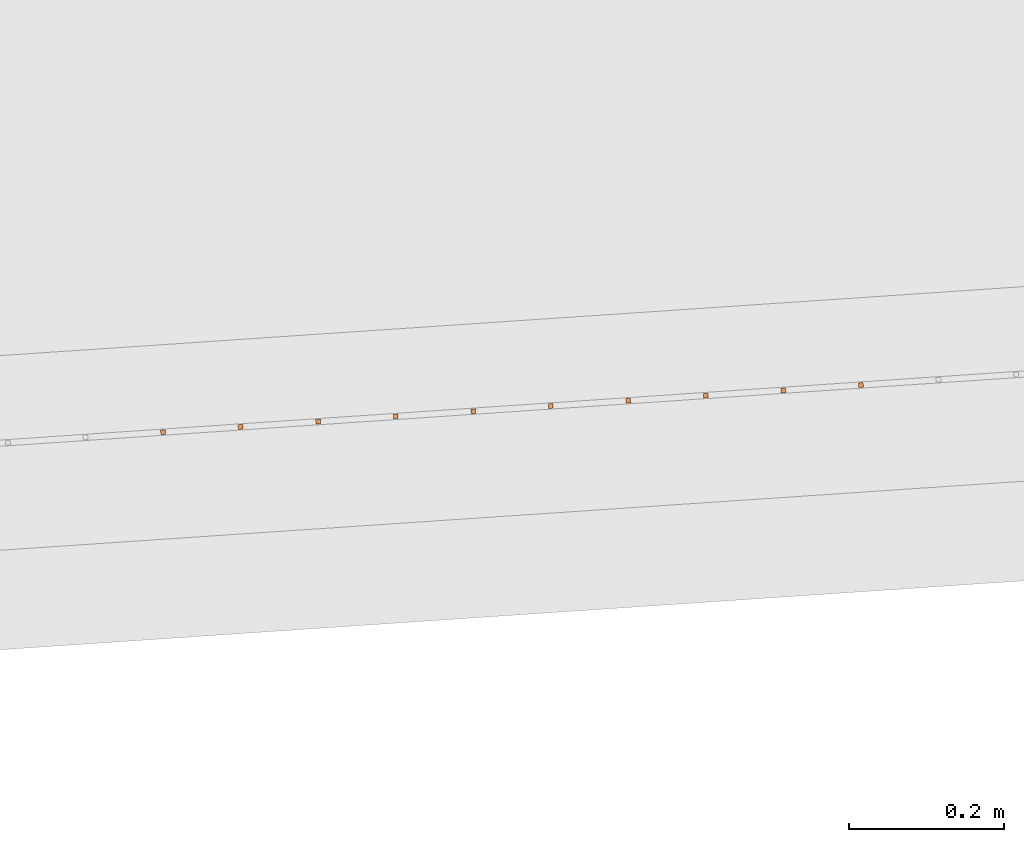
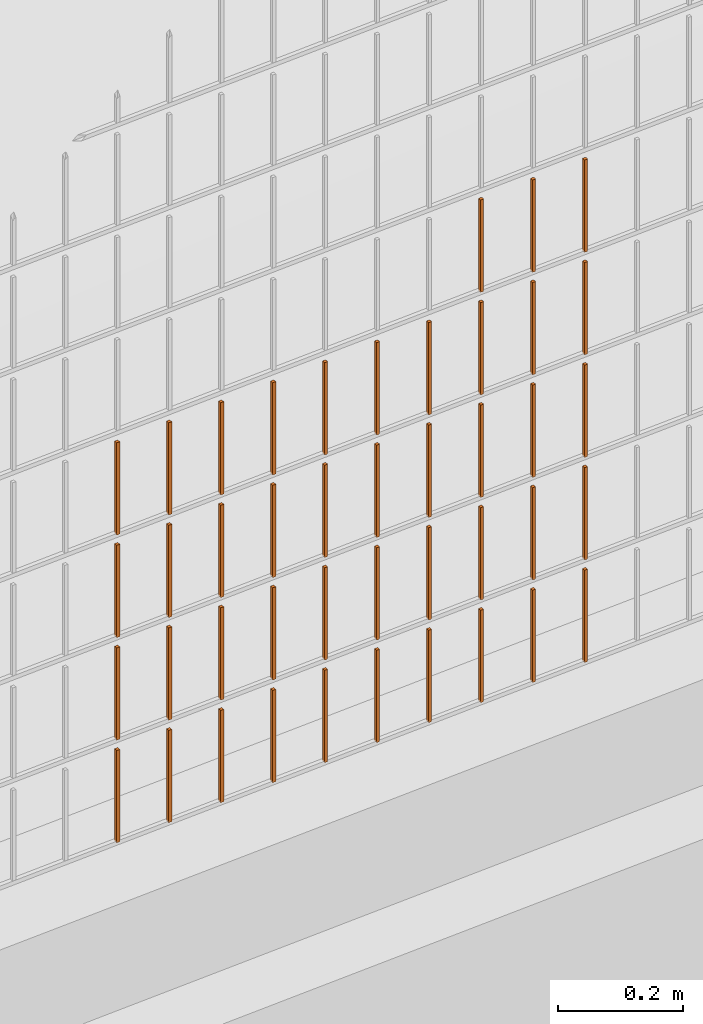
# One storey, part 169 of 1809: 43 proxies, 1 element without a shape of its own.
"""IFC2X3 building model written with IfcOpenShell, lengths in millimetres."""

from ifc_helpers import new_model, entity, si_unit, converted_unit, derived_unit, money_unit, direction, frame, origin_with_axes, place, context, subcontext, project, spatial, faceted_brep, source, transform, mapped, material, type_object, element, aggregate, save


model = new_model("IFC2X3")

# Units and contexts
model_context = context("Model", 3, precision=0.01, world=origin_with_axes(), true_north=direction((0.0, 1.0)))
body_context = subcontext(model_context, "Body", "Model", "MODEL_VIEW")
ifc_project = project(units=[si_unit("LENGTHUNIT", "METRE", prefix="MILLI"), si_unit("AREAUNIT", "SQUARE_METRE"), si_unit("VOLUMEUNIT", "CUBIC_METRE"), converted_unit("PLANEANGLEUNIT", "DEGREE", entity("IfcPlaneAngleMeasure", 0.0174532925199), si_unit("PLANEANGLEUNIT", "RADIAN"), dimensions=[0, 0, 0, 0, 0, 0, 0]), si_unit("SOLIDANGLEUNIT", "STERADIAN"), money_unit("EUR"), converted_unit("TIMEUNIT", "Year", entity("IfcTimeMeasure", 31556926.0), si_unit("TIMEUNIT", "SECOND"), dimensions=[0, 0, 1, 0, 0, 0, 0]), si_unit("MASSUNIT", "GRAM", prefix="KILO"), si_unit("THERMODYNAMICTEMPERATUREUNIT", "DEGREE_CELSIUS"), si_unit("LUMINOUSINTENSITYUNIT", "LUMEN"), si_unit("ENERGYUNIT", "JOULE", prefix="MEGA"), derived_unit("THERMALCONDUCTANCEUNIT", [(si_unit("POWERUNIT", "WATT"), 1), (si_unit("LENGTHUNIT", "METRE"), -1), (si_unit("THERMODYNAMICTEMPERATUREUNIT", "KELVIN"), -1)]), derived_unit("SPECIFICHEATCAPACITYUNIT", [(si_unit("ENERGYUNIT", "JOULE"), 1), (si_unit("MASSUNIT", "GRAM", prefix="KILO"), -1), (si_unit("THERMODYNAMICTEMPERATUREUNIT", "KELVIN"), -1)]), derived_unit("MASSDENSITYUNIT", [(si_unit("MASSUNIT", "GRAM", prefix="KILO"), 1), (si_unit("VOLUMEUNIT", "CUBIC_METRE"), -1)])], contexts=[model_context])

# Site, building, storey
site_placement = place(None, origin_with_axes())
site = spatial("IfcSite", under=ifc_project, at=site_placement, Name="Politse- ja Piirivalveameti ning Päästeameti ühishoone", CompositionType="ELEMENT")
building_placement = place(site_placement, origin_with_axes())
building = spatial("IfcBuilding", under=site, at=building_placement, Name="Politse- ja Piirivalveameti ning Päästeameti ühishoone", CompositionType="ELEMENT")
storey_placement = place(building_placement, origin_with_axes())
storey = spatial("IfcBuildingStorey", under=building, at=storey_placement, Name="Esimene korrus", CompositionType="ELEMENT", Elevation=0.0)

# Proxies
building_element_proxy_type_1 = type_object("IfcBuildingElementProxyType", Name="Railing Type", PredefinedType="NOTDEFINED")
proxy_1_placement = place(storey_placement, frame((89252.001212, -29183.4766571, 203.661247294), z_axis=(0.0, 0.0, 1.0), x_axis=(1.0, 0.0, 0.0)))
proxy_1 = element("IfcBuildingElementProxy", 1, at=proxy_1_placement, inside=storey, type_object=building_element_proxy_type_1, Name="PIIRDEAED")
ifc_material = material(Name="ET-03_Raud")
building_element_proxy_type_2 = type_object("IfcBuildingElementProxyType", Name="IfcBuildingElementProxy", PredefinedType="NOTDEFINED")
shared_shape_1 = source(origin_with_axes(), body_context, "Body", "Brep", [
    faceted_brep([(3.0, 3.0, -0.000752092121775), (-3.0, 3.0, -0.000752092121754), (-3.0, 3.0, 179.99926046), (3.0, 3.0, 179.99926046), (3.0, -3.0, 0.000752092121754), (-3.0, -3.0, 0.000752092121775), (-3.0, -3.0, 180.000764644), (3.0, -3.0, 180.000764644)], [[[0, 1, 2, 3]], [[0, 4, 5, 1]], [[1, 5, 6, 2]], [[3, 2, 6, 7]], [[4, 0, 3, 7]], [[5, 4, 7, 6]]]),
])
proxy_2_placement = place(proxy_1_placement, frame((-76053.3888989, -22434.8941666, 8.12455501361), z_axis=(0.0, 0.0, 1.0), x_axis=(1.0, 0.0, 0.0)))
proxy_2 = element("IfcBuildingElementProxy", 2, at=proxy_2_placement, type_object=building_element_proxy_type_2, material=ifc_material, Name="BALUSTER - 001", context=body_context, shape_type="MappedRepresentation", body=[
    mapped(shared_shape_1, transform((0.0, 0.0, 0.0), x_axis=(-0.0673926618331, 0.997726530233, 0.0), y_axis=(-0.997726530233, -0.0673926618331, 0.0), z_axis=(0.0, 0.0, 1.0))),
])
shared_shape_2 = source(origin_with_axes(), body_context, "Body", "Brep", [
    faceted_brep([(3.0, 3.0, -0.000752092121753), (-3.0, 3.0, -0.000752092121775), (-3.0, 3.0, 179.99926046), (3.0, 3.0, 179.99926046), (3.0, -3.0, 0.000752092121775), (-3.0, -3.0, 0.000752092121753), (-3.0, -3.0, 180.000764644), (3.0, -3.0, 180.000764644)], [[[0, 1, 2, 3]], [[0, 4, 5, 1]], [[1, 5, 6, 2]], [[3, 2, 6, 7]], [[4, 0, 3, 7]], [[5, 4, 7, 6]]]),
])
proxy_3_placement = place(proxy_1_placement, frame((-75654.2982869, -22407.9371019, 8.22483396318), z_axis=(0.0, 0.0, 1.0), x_axis=(1.0, 0.0, 0.0)))
proxy_3 = element("IfcBuildingElementProxy", 3, at=proxy_3_placement, type_object=building_element_proxy_type_2, material=ifc_material, Name="BALUSTER - 001", context=body_context, shape_type="MappedRepresentation", body=[
    mapped(shared_shape_2, transform((0.0, 0.0, 0.0), x_axis=(-0.0673926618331, 0.997726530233, 0.0), y_axis=(-0.997726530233, -0.0673926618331, 0.0), z_axis=(0.0, 0.0, 1.0))),
])
proxy_4_placement = place(proxy_1_placement, frame((-75953.6162459, -22428.1549004, 8.14962475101), z_axis=(0.0, 0.0, 1.0), x_axis=(1.0, 0.0, 0.0)))
proxy_4 = element("IfcBuildingElementProxy", 4, at=proxy_4_placement, type_object=building_element_proxy_type_2, material=ifc_material, Name="BALUSTER - 001", context=body_context, shape_type="MappedRepresentation", body=[
    mapped(shared_shape_2, transform((0.0, 0.0, 0.0), x_axis=(-0.0673926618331, 0.997726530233, 0.0), y_axis=(-0.997726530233, -0.0673926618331, 0.0), z_axis=(0.0, 0.0, 1.0))),
])
shared_shape_3 = source(origin_with_axes(), body_context, "Body", "Brep", [
    faceted_brep([(3.0, 3.0, -0.000752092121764), (-3.0, 3.0, -0.000752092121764), (-3.0, 3.0, 179.99926046), (3.0, 3.0, 179.99926046), (3.0, -3.0, 0.000752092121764), (-3.0, -3.0, 0.000752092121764), (-3.0, -3.0, 180.000764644), (3.0, -3.0, 180.000764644)], [[[0, 1, 2, 3]], [[0, 4, 5, 1]], [[1, 5, 6, 2]], [[3, 2, 6, 7]], [[4, 0, 3, 7]], [[5, 4, 7, 6]]]),
])
proxy_5_placement = place(proxy_1_placement, frame((-75754.0709399, -22414.676368, 8.19976422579), z_axis=(0.0, 0.0, 1.0), x_axis=(1.0, 0.0, 0.0)))
proxy_5 = element("IfcBuildingElementProxy", 5, at=proxy_5_placement, type_object=building_element_proxy_type_2, material=ifc_material, Name="BALUSTER - 001", context=body_context, shape_type="MappedRepresentation", body=[
    mapped(shared_shape_3, transform((0.0, 0.0, 0.0), x_axis=(-0.0673926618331, 0.997726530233, 0.0), y_axis=(-0.997726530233, -0.0673926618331, 0.0), z_axis=(0.0, 0.0, 1.0))),
])
proxy_6_placement = place(proxy_1_placement, frame((-75754.0709399, -22414.676368, 208.199764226), z_axis=(0.0, 0.0, 1.0), x_axis=(1.0, 0.0, 0.0)))
proxy_6 = element("IfcBuildingElementProxy", 6, at=proxy_6_placement, type_object=building_element_proxy_type_2, material=ifc_material, Name="BALUSTER - 001", context=body_context, shape_type="MappedRepresentation", body=[
    mapped(shared_shape_3, transform((0.0, 0.0, 0.0), x_axis=(-0.0673926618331, 0.997726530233, 0.0), y_axis=(-0.997726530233, -0.0673926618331, 0.0), z_axis=(0.0, 0.0, 1.0))),
])
shared_shape_4 = source(origin_with_axes(), body_context, "Body", "Brep", [
    faceted_brep([(3.0, 3.0, -0.000752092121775), (-3.0, 3.0, -0.000752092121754), (-3.0, 3.0, 179.99926046), (3.0, 3.0, 179.99926046), (3.0, -3.0, 0.000752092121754), (-3.0, -3.0, 0.000752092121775), (-3.0, -3.0, 180.000764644), (3.0, -3.0, 180.000764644)], [[[0, 1, 2, 3]], [[0, 4, 5, 1]], [[1, 5, 6, 2]], [[3, 2, 6, 7]], [[4, 0, 3, 7]], [[5, 4, 7, 6]]]),
])
proxy_7_placement = place(proxy_1_placement, frame((-75454.7529808, -22394.4585695, 208.274973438), z_axis=(0.0, 0.0, 1.0), x_axis=(1.0, 0.0, 0.0)))
proxy_7 = element("IfcBuildingElementProxy", 7, at=proxy_7_placement, type_object=building_element_proxy_type_2, material=ifc_material, Name="BALUSTER - 001", context=body_context, shape_type="MappedRepresentation", body=[
    mapped(shared_shape_4, transform((0.0, 0.0, 0.0), x_axis=(-0.0673926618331, 0.997726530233, 0.0), y_axis=(-0.997726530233, -0.0673926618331, 0.0), z_axis=(0.0, 0.0, 1.0))),
])
proxy_8_placement = place(proxy_1_placement, frame((-76053.3888989, -22434.8941666, 208.124555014), z_axis=(0.0, 0.0, 1.0), x_axis=(1.0, 0.0, 0.0)))
proxy_8 = element("IfcBuildingElementProxy", 8, at=proxy_8_placement, type_object=building_element_proxy_type_2, material=ifc_material, Name="BALUSTER - 001", context=body_context, shape_type="MappedRepresentation", body=[
    mapped(shared_shape_4, transform((0.0, 0.0, 0.0), x_axis=(-0.0673926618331, 0.997726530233, 0.0), y_axis=(-0.997726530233, -0.0673926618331, 0.0), z_axis=(0.0, 0.0, 1.0))),
])
proxy_9_placement = place(proxy_1_placement, frame((-75454.7529808, -22394.4585695, 408.274973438), z_axis=(0.0, 0.0, 1.0), x_axis=(1.0, 0.0, 0.0)))
proxy_9 = element("IfcBuildingElementProxy", 9, at=proxy_9_placement, type_object=building_element_proxy_type_2, material=ifc_material, Name="BALUSTER - 001", context=body_context, shape_type="MappedRepresentation", body=[
    mapped(shared_shape_4, transform((0.0, 0.0, 0.0), x_axis=(-0.0673926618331, 0.997726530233, 0.0), y_axis=(-0.997726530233, -0.0673926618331, 0.0), z_axis=(0.0, 0.0, 1.0))),
])
proxy_10_placement = place(proxy_1_placement, frame((-76053.3888989, -22434.8941666, 608.124555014), z_axis=(0.0, 0.0, 1.0), x_axis=(1.0, 0.0, 0.0)))
proxy_10 = element("IfcBuildingElementProxy", 10, at=proxy_10_placement, type_object=building_element_proxy_type_2, material=ifc_material, Name="BALUSTER - 001", context=body_context, shape_type="MappedRepresentation", body=[
    mapped(shared_shape_4, transform((0.0, 0.0, 0.0), x_axis=(-0.0673926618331, 0.997726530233, 0.0), y_axis=(-0.997726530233, -0.0673926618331, 0.0), z_axis=(0.0, 0.0, 1.0))),
])
shared_shape_5 = source(origin_with_axes(), body_context, "Body", "Brep", [
    faceted_brep([(3.0, 3.0, -0.000752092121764), (-3.0, 3.0, -0.000752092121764), (-3.0, 3.0, 179.99926046), (3.0, 3.0, 179.99926046), (3.0, -3.0, 0.000752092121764), (-3.0, -3.0, 0.000752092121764), (-3.0, -3.0, 180.000764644), (3.0, -3.0, 180.000764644)], [[[0, 1, 2, 3]], [[0, 4, 5, 1]], [[1, 5, 6, 2]], [[3, 2, 6, 7]], [[4, 0, 3, 7]], [[5, 4, 7, 6]]]),
])
proxy_11_placement = place(proxy_1_placement, frame((-75354.9803278, -22387.7193033, 208.300043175), z_axis=(0.0, 0.0, 1.0), x_axis=(1.0, 0.0, 0.0)))
proxy_11 = element("IfcBuildingElementProxy", 11, at=proxy_11_placement, type_object=building_element_proxy_type_2, material=ifc_material, Name="BALUSTER - 001", context=body_context, shape_type="MappedRepresentation", body=[
    mapped(shared_shape_5, transform((0.0, 0.0, 0.0), x_axis=(-0.0673926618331, 0.997726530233, 0.0), y_axis=(-0.997726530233, -0.0673926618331, 0.0), z_axis=(0.0, 0.0, 1.0))),
])
proxy_12_placement = place(proxy_1_placement, frame((-75754.0709399, -22414.676368, 408.199764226), z_axis=(0.0, 0.0, 1.0), x_axis=(1.0, 0.0, 0.0)))
proxy_12 = element("IfcBuildingElementProxy", 12, at=proxy_12_placement, type_object=building_element_proxy_type_2, material=ifc_material, Name="BALUSTER - 001", context=body_context, shape_type="MappedRepresentation", body=[
    mapped(shared_shape_5, transform((0.0, 0.0, 0.0), x_axis=(-0.0673926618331, 0.997726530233, 0.0), y_axis=(-0.997726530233, -0.0673926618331, 0.0), z_axis=(0.0, 0.0, 1.0))),
])
proxy_13_placement = place(proxy_1_placement, frame((-75354.9803278, -22387.7193033, 608.300043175), z_axis=(0.0, 0.0, 1.0), x_axis=(1.0, 0.0, 0.0)))
proxy_13 = element("IfcBuildingElementProxy", 13, at=proxy_13_placement, type_object=building_element_proxy_type_2, material=ifc_material, Name="BALUSTER - 001", context=body_context, shape_type="MappedRepresentation", body=[
    mapped(shared_shape_5, transform((0.0, 0.0, 0.0), x_axis=(-0.0673926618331, 0.997726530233, 0.0), y_axis=(-0.997726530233, -0.0673926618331, 0.0), z_axis=(0.0, 0.0, 1.0))),
])
shared_shape_6 = source(origin_with_axes(), body_context, "Body", "Brep", [
    faceted_brep([(3.0, 3.0, -0.000752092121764), (-3.0, 3.0, -0.000752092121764), (-3.0, 3.0, 179.99926046), (3.0, 3.0, 179.99926046), (3.0, -3.0, 0.000752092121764), (-3.0, -3.0, 0.000752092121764), (-3.0, -3.0, 180.000764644), (3.0, -3.0, 180.000764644)], [[[0, 1, 2, 3]], [[0, 4, 5, 1]], [[1, 5, 6, 2]], [[3, 2, 6, 7]], [[4, 0, 3, 7]], [[5, 4, 7, 6]]]),
])
proxy_14_placement = place(proxy_1_placement, frame((-75354.9803278, -22387.7193033, 8.30004317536), z_axis=(0.0, 0.0, 1.0), x_axis=(1.0, 0.0, 0.0)))
proxy_14 = element("IfcBuildingElementProxy", 14, at=proxy_14_placement, type_object=building_element_proxy_type_2, material=ifc_material, Name="BALUSTER - 001", context=body_context, shape_type="MappedRepresentation", body=[
    mapped(shared_shape_6, transform((0.0, 0.0, 0.0), x_axis=(-0.0673926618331, 0.997726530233, 0.0), y_axis=(-0.997726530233, -0.0673926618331, 0.0), z_axis=(0.0, 0.0, 1.0))),
])
shared_shape_7 = source(origin_with_axes(), body_context, "Body", "Brep", [
    faceted_brep([(3.0, 3.0, -0.000752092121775), (-3.0, 3.0, -0.000752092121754), (-3.0, 3.0, 179.99926046), (3.0, 3.0, 179.99926046), (3.0, -3.0, 0.000752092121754), (-3.0, -3.0, 0.000752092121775), (-3.0, -3.0, 180.000764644), (3.0, -3.0, 180.000764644)], [[[0, 1, 2, 3]], [[0, 4, 5, 1]], [[1, 5, 6, 2]], [[3, 2, 6, 7]], [[4, 0, 3, 7]], [[5, 4, 7, 6]]]),
])
proxy_15_placement = place(proxy_1_placement, frame((-76053.3888989, -22434.8941666, 408.124555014), z_axis=(0.0, 0.0, 1.0), x_axis=(1.0, 0.0, 0.0)))
proxy_15 = element("IfcBuildingElementProxy", 15, at=proxy_15_placement, type_object=building_element_proxy_type_2, material=ifc_material, Name="BALUSTER - 001", context=body_context, shape_type="MappedRepresentation", body=[
    mapped(shared_shape_7, transform((0.0, 0.0, 0.0), x_axis=(-0.0673926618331, 0.997726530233, 0.0), y_axis=(-0.997726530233, -0.0673926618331, 0.0), z_axis=(0.0, 0.0, 1.0))),
])
proxy_16_placement = place(proxy_1_placement, frame((-75454.7529808, -22394.4585695, 608.274973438), z_axis=(0.0, 0.0, 1.0), x_axis=(1.0, 0.0, 0.0)))
proxy_16 = element("IfcBuildingElementProxy", 16, at=proxy_16_placement, type_object=building_element_proxy_type_2, material=ifc_material, Name="BALUSTER - 001", context=body_context, shape_type="MappedRepresentation", body=[
    mapped(shared_shape_7, transform((0.0, 0.0, 0.0), x_axis=(-0.0673926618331, 0.997726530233, 0.0), y_axis=(-0.997726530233, -0.0673926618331, 0.0), z_axis=(0.0, 0.0, 1.0))),
])
shared_shape_8 = source(origin_with_axes(), body_context, "Body", "Brep", [
    faceted_brep([(3.0, 3.0, -0.000752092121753), (-3.0, 3.0, -0.000752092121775), (-3.0, 3.0, 179.99926046), (3.0, 3.0, 179.99926046), (3.0, -3.0, 0.000752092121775), (-3.0, -3.0, 0.000752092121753), (-3.0, -3.0, 180.000764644), (3.0, -3.0, 180.000764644)], [[[0, 1, 2, 3]], [[0, 4, 5, 1]], [[1, 5, 6, 2]], [[3, 2, 6, 7]], [[4, 0, 3, 7]], [[5, 4, 7, 6]]]),
])
proxy_17_placement = place(proxy_1_placement, frame((-75853.8435929, -22421.4156342, 208.174694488), z_axis=(0.0, 0.0, 1.0), x_axis=(1.0, 0.0, 0.0)))
proxy_17 = element("IfcBuildingElementProxy", 17, at=proxy_17_placement, type_object=building_element_proxy_type_2, material=ifc_material, Name="BALUSTER - 001", context=body_context, shape_type="MappedRepresentation", body=[
    mapped(shared_shape_8, transform((0.0, 0.0, 0.0), x_axis=(-0.0673926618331, 0.997726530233, 0.0), y_axis=(-0.997726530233, -0.0673926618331, 0.0), z_axis=(0.0, 0.0, 1.0))),
])
proxy_18_placement = place(proxy_1_placement, frame((-76153.161552, -22441.6334328, 608.099485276), z_axis=(0.0, 0.0, 1.0), x_axis=(1.0, 0.0, 0.0)))
proxy_18 = element("IfcBuildingElementProxy", 18, at=proxy_18_placement, type_object=building_element_proxy_type_2, material=ifc_material, Name="BALUSTER - 001", context=body_context, shape_type="MappedRepresentation", body=[
    mapped(shared_shape_8, transform((0.0, 0.0, 0.0), x_axis=(-0.0673926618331, 0.997726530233, 0.0), y_axis=(-0.997726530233, -0.0673926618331, 0.0), z_axis=(0.0, 0.0, 1.0))),
])
shared_shape_9 = source(origin_with_axes(), body_context, "Body", "Brep", [
    faceted_brep([(3.0, 3.0, -0.000752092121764), (-3.0, 3.0, -0.000752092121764), (-3.0, 3.0, 179.99926046), (3.0, 3.0, 179.99926046), (3.0, -3.0, 0.000752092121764), (-3.0, -3.0, 0.000752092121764), (-3.0, -3.0, 180.000764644), (3.0, -3.0, 180.000764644)], [[[0, 1, 2, 3]], [[0, 4, 5, 1]], [[1, 5, 6, 2]], [[3, 2, 6, 7]], [[4, 0, 3, 7]], [[5, 4, 7, 6]]]),
])
proxy_19_placement = place(proxy_1_placement, frame((-75354.9803278, -22387.7193033, 408.300043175), z_axis=(0.0, 0.0, 1.0), x_axis=(1.0, 0.0, 0.0)))
proxy_19 = element("IfcBuildingElementProxy", 19, at=proxy_19_placement, type_object=building_element_proxy_type_2, material=ifc_material, Name="BALUSTER - 001", context=body_context, shape_type="MappedRepresentation", body=[
    mapped(shared_shape_9, transform((0.0, 0.0, 0.0), x_axis=(-0.0673926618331, 0.997726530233, 0.0), y_axis=(-0.997726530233, -0.0673926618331, 0.0), z_axis=(0.0, 0.0, 1.0))),
])
shared_shape_10 = source(origin_with_axes(), body_context, "Body", "Brep", [
    faceted_brep([(3.0, 3.0, -0.000752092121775), (-3.0, 3.0, -0.000752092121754), (-3.0, 3.0, 179.99926046), (3.0, 3.0, 179.99926046), (3.0, -3.0, 0.000752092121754), (-3.0, -3.0, 0.000752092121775), (-3.0, -3.0, 180.000764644), (3.0, -3.0, 180.000764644)], [[[0, 1, 2, 3]], [[0, 4, 5, 1]], [[1, 5, 6, 2]], [[3, 2, 6, 7]], [[4, 0, 3, 7]], [[5, 4, 7, 6]]]),
])
proxy_20_placement = place(proxy_1_placement, frame((-75454.7529808, -22394.4585695, 808.274973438), z_axis=(0.0, 0.0, 1.0), x_axis=(1.0, 0.0, 0.0)))
proxy_20 = element("IfcBuildingElementProxy", 20, at=proxy_20_placement, type_object=building_element_proxy_type_2, material=ifc_material, Name="BALUSTER - 001", context=body_context, shape_type="MappedRepresentation", body=[
    mapped(shared_shape_10, transform((0.0, 0.0, 0.0), x_axis=(-0.0673926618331, 0.997726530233, 0.0), y_axis=(-0.997726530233, -0.0673926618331, 0.0), z_axis=(0.0, 0.0, 1.0))),
])
shared_shape_11 = source(origin_with_axes(), body_context, "Body", "Brep", [
    faceted_brep([(3.0, 3.0, -0.000752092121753), (-3.0, 3.0, -0.000752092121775), (-3.0, 3.0, 179.99926046), (3.0, 3.0, 179.99926046), (3.0, -3.0, 0.000752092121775), (-3.0, -3.0, 0.000752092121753), (-3.0, -3.0, 180.000764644), (3.0, -3.0, 180.000764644)], [[[0, 1, 2, 3]], [[0, 4, 5, 1]], [[1, 5, 6, 2]], [[3, 2, 6, 7]], [[4, 0, 3, 7]], [[5, 4, 7, 6]]]),
])
proxy_21_placement = place(proxy_1_placement, frame((-75255.2076748, -22380.9800371, 808.325112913), z_axis=(0.0, 0.0, 1.0), x_axis=(1.0, 0.0, 0.0)))
proxy_21 = element("IfcBuildingElementProxy", 21, at=proxy_21_placement, type_object=building_element_proxy_type_2, material=ifc_material, Name="BALUSTER - 001", context=body_context, shape_type="MappedRepresentation", body=[
    mapped(shared_shape_11, transform((0.0, 0.0, 0.0), x_axis=(-0.0673926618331, 0.997726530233, 0.0), y_axis=(-0.997726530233, -0.0673926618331, 0.0), z_axis=(0.0, 0.0, 1.0))),
])
shared_shape_12 = source(origin_with_axes(), body_context, "Body", "Brep", [
    faceted_brep([(3.0, 3.0, -0.000752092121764), (-3.0, 3.0, -0.000752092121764), (-3.0, 3.0, 179.99926046), (3.0, 3.0, 179.99926046), (3.0, -3.0, 0.000752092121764), (-3.0, -3.0, 0.000752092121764), (-3.0, -3.0, 180.000764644), (3.0, -3.0, 180.000764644)], [[[0, 1, 2, 3]], [[0, 4, 5, 1]], [[1, 5, 6, 2]], [[3, 2, 6, 7]], [[4, 0, 3, 7]], [[5, 4, 7, 6]]]),
])
proxy_22_placement = place(proxy_1_placement, frame((-75354.9803278, -22387.7193033, 808.300043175), z_axis=(0.0, 0.0, 1.0), x_axis=(1.0, 0.0, 0.0)))
proxy_22 = element("IfcBuildingElementProxy", 22, at=proxy_22_placement, type_object=building_element_proxy_type_2, material=ifc_material, Name="BALUSTER - 001", context=body_context, shape_type="MappedRepresentation", body=[
    mapped(shared_shape_12, transform((0.0, 0.0, 0.0), x_axis=(-0.0673926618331, 0.997726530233, 0.0), y_axis=(-0.997726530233, -0.0673926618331, 0.0), z_axis=(0.0, 0.0, 1.0))),
])
shared_shape_13 = source(origin_with_axes(), body_context, "Body", "Brep", [
    faceted_brep([(3.0, 3.0, -0.000752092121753), (-3.0, 3.0, -0.000752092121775), (-3.0, 3.0, 179.99926046), (3.0, 3.0, 179.99926046), (3.0, -3.0, 0.000752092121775), (-3.0, -3.0, 0.000752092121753), (-3.0, -3.0, 180.000764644), (3.0, -3.0, 180.000764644)], [[[0, 1, 2, 3]], [[0, 4, 5, 1]], [[1, 5, 6, 2]], [[3, 2, 6, 7]], [[4, 0, 3, 7]], [[5, 4, 7, 6]]]),
])
proxy_23_placement = place(proxy_1_placement, frame((-75255.2076748, -22380.9800371, 8.32511291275), z_axis=(0.0, 0.0, 1.0), x_axis=(1.0, 0.0, 0.0)))
proxy_23 = element("IfcBuildingElementProxy", 23, at=proxy_23_placement, type_object=building_element_proxy_type_2, material=ifc_material, Name="BALUSTER - 001", context=body_context, shape_type="MappedRepresentation", body=[
    mapped(shared_shape_13, transform((0.0, 0.0, 0.0), x_axis=(-0.0673926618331, 0.997726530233, 0.0), y_axis=(-0.997726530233, -0.0673926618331, 0.0), z_axis=(0.0, 0.0, 1.0))),
])
proxy_24_placement = place(proxy_1_placement, frame((-75554.5256338, -22401.1978357, 8.24990370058), z_axis=(0.0, 0.0, 1.0), x_axis=(1.0, 0.0, 0.0)))
proxy_24 = element("IfcBuildingElementProxy", 24, at=proxy_24_placement, type_object=building_element_proxy_type_2, material=ifc_material, Name="BALUSTER - 001", context=body_context, shape_type="MappedRepresentation", body=[
    mapped(shared_shape_13, transform((0.0, 0.0, 0.0), x_axis=(-0.0673926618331, 0.997726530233, 0.0), y_axis=(-0.997726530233, -0.0673926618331, 0.0), z_axis=(0.0, 0.0, 1.0))),
])
proxy_25_placement = place(proxy_1_placement, frame((-75853.8435929, -22421.4156342, 8.1746944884), z_axis=(0.0, 0.0, 1.0), x_axis=(1.0, 0.0, 0.0)))
proxy_25 = element("IfcBuildingElementProxy", 25, at=proxy_25_placement, type_object=building_element_proxy_type_2, material=ifc_material, Name="BALUSTER - 001", context=body_context, shape_type="MappedRepresentation", body=[
    mapped(shared_shape_13, transform((0.0, 0.0, 0.0), x_axis=(-0.0673926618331, 0.997726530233, 0.0), y_axis=(-0.997726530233, -0.0673926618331, 0.0), z_axis=(0.0, 0.0, 1.0))),
])
proxy_26_placement = place(proxy_1_placement, frame((-76153.161552, -22441.6334328, 8.09948527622), z_axis=(0.0, 0.0, 1.0), x_axis=(1.0, 0.0, 0.0)))
proxy_26 = element("IfcBuildingElementProxy", 26, at=proxy_26_placement, type_object=building_element_proxy_type_2, material=ifc_material, Name="BALUSTER - 001", context=body_context, shape_type="MappedRepresentation", body=[
    mapped(shared_shape_13, transform((0.0, 0.0, 0.0), x_axis=(-0.0673926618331, 0.997726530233, 0.0), y_axis=(-0.997726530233, -0.0673926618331, 0.0), z_axis=(0.0, 0.0, 1.0))),
])
shared_shape_14 = source(origin_with_axes(), body_context, "Body", "Brep", [
    faceted_brep([(3.0, 3.0, -0.000752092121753), (-3.0, 3.0, -0.000752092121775), (-3.0, 3.0, 179.99926046), (3.0, 3.0, 179.99926046), (3.0, -3.0, 0.000752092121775), (-3.0, -3.0, 0.000752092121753), (-3.0, -3.0, 180.000764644), (3.0, -3.0, 180.000764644)], [[[0, 1, 2, 3]], [[0, 4, 5, 1]], [[1, 5, 6, 2]], [[3, 2, 6, 7]], [[4, 0, 3, 7]], [[5, 4, 7, 6]]]),
])
proxy_27_placement = place(proxy_1_placement, frame((-75255.2076748, -22380.9800371, 208.325112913), z_axis=(0.0, 0.0, 1.0), x_axis=(1.0, 0.0, 0.0)))
proxy_27 = element("IfcBuildingElementProxy", 27, at=proxy_27_placement, type_object=building_element_proxy_type_2, material=ifc_material, Name="BALUSTER - 001", context=body_context, shape_type="MappedRepresentation", body=[
    mapped(shared_shape_14, transform((0.0, 0.0, 0.0), x_axis=(-0.0673926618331, 0.997726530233, 0.0), y_axis=(-0.997726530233, -0.0673926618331, 0.0), z_axis=(0.0, 0.0, 1.0))),
])
proxy_28_placement = place(proxy_1_placement, frame((-75953.6162459, -22428.1549004, 208.149624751), z_axis=(0.0, 0.0, 1.0), x_axis=(1.0, 0.0, 0.0)))
proxy_28 = element("IfcBuildingElementProxy", 28, at=proxy_28_placement, type_object=building_element_proxy_type_2, material=ifc_material, Name="BALUSTER - 001", context=body_context, shape_type="MappedRepresentation", body=[
    mapped(shared_shape_14, transform((0.0, 0.0, 0.0), x_axis=(-0.0673926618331, 0.997726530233, 0.0), y_axis=(-0.997726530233, -0.0673926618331, 0.0), z_axis=(0.0, 0.0, 1.0))),
])
proxy_29_placement = place(proxy_1_placement, frame((-75255.2076748, -22380.9800371, 408.325112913), z_axis=(0.0, 0.0, 1.0), x_axis=(1.0, 0.0, 0.0)))
proxy_29 = element("IfcBuildingElementProxy", 29, at=proxy_29_placement, type_object=building_element_proxy_type_2, material=ifc_material, Name="BALUSTER - 001", context=body_context, shape_type="MappedRepresentation", body=[
    mapped(shared_shape_14, transform((0.0, 0.0, 0.0), x_axis=(-0.0673926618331, 0.997726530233, 0.0), y_axis=(-0.997726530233, -0.0673926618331, 0.0), z_axis=(0.0, 0.0, 1.0))),
])
proxy_30_placement = place(proxy_1_placement, frame((-75554.5256338, -22401.1978357, 408.249903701), z_axis=(0.0, 0.0, 1.0), x_axis=(1.0, 0.0, 0.0)))
proxy_30 = element("IfcBuildingElementProxy", 30, at=proxy_30_placement, type_object=building_element_proxy_type_2, material=ifc_material, Name="BALUSTER - 001", context=body_context, shape_type="MappedRepresentation", body=[
    mapped(shared_shape_14, transform((0.0, 0.0, 0.0), x_axis=(-0.0673926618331, 0.997726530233, 0.0), y_axis=(-0.997726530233, -0.0673926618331, 0.0), z_axis=(0.0, 0.0, 1.0))),
])
proxy_31_placement = place(proxy_1_placement, frame((-75654.2982869, -22407.9371019, 408.224833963), z_axis=(0.0, 0.0, 1.0), x_axis=(1.0, 0.0, 0.0)))
proxy_31 = element("IfcBuildingElementProxy", 31, at=proxy_31_placement, type_object=building_element_proxy_type_2, material=ifc_material, Name="BALUSTER - 001", context=body_context, shape_type="MappedRepresentation", body=[
    mapped(shared_shape_14, transform((0.0, 0.0, 0.0), x_axis=(-0.0673926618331, 0.997726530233, 0.0), y_axis=(-0.997726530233, -0.0673926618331, 0.0), z_axis=(0.0, 0.0, 1.0))),
])
proxy_32_placement = place(proxy_1_placement, frame((-75853.8435929, -22421.4156342, 408.174694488), z_axis=(0.0, 0.0, 1.0), x_axis=(1.0, 0.0, 0.0)))
proxy_32 = element("IfcBuildingElementProxy", 32, at=proxy_32_placement, type_object=building_element_proxy_type_2, material=ifc_material, Name="BALUSTER - 001", context=body_context, shape_type="MappedRepresentation", body=[
    mapped(shared_shape_14, transform((0.0, 0.0, 0.0), x_axis=(-0.0673926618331, 0.997726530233, 0.0), y_axis=(-0.997726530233, -0.0673926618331, 0.0), z_axis=(0.0, 0.0, 1.0))),
])
proxy_33_placement = place(proxy_1_placement, frame((-75953.6162459, -22428.1549004, 408.149624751), z_axis=(0.0, 0.0, 1.0), x_axis=(1.0, 0.0, 0.0)))
proxy_33 = element("IfcBuildingElementProxy", 33, at=proxy_33_placement, type_object=building_element_proxy_type_2, material=ifc_material, Name="BALUSTER - 001", context=body_context, shape_type="MappedRepresentation", body=[
    mapped(shared_shape_14, transform((0.0, 0.0, 0.0), x_axis=(-0.0673926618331, 0.997726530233, 0.0), y_axis=(-0.997726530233, -0.0673926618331, 0.0), z_axis=(0.0, 0.0, 1.0))),
])
proxy_34_placement = place(proxy_1_placement, frame((-76153.161552, -22441.6334328, 408.099485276), z_axis=(0.0, 0.0, 1.0), x_axis=(1.0, 0.0, 0.0)))
proxy_34 = element("IfcBuildingElementProxy", 34, at=proxy_34_placement, type_object=building_element_proxy_type_2, material=ifc_material, Name="BALUSTER - 001", context=body_context, shape_type="MappedRepresentation", body=[
    mapped(shared_shape_14, transform((0.0, 0.0, 0.0), x_axis=(-0.0673926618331, 0.997726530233, 0.0), y_axis=(-0.997726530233, -0.0673926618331, 0.0), z_axis=(0.0, 0.0, 1.0))),
])
proxy_35_placement = place(proxy_1_placement, frame((-75255.2076748, -22380.9800371, 608.325112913), z_axis=(0.0, 0.0, 1.0), x_axis=(1.0, 0.0, 0.0)))
proxy_35 = element("IfcBuildingElementProxy", 35, at=proxy_35_placement, type_object=building_element_proxy_type_2, material=ifc_material, Name="BALUSTER - 001", context=body_context, shape_type="MappedRepresentation", body=[
    mapped(shared_shape_14, transform((0.0, 0.0, 0.0), x_axis=(-0.0673926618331, 0.997726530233, 0.0), y_axis=(-0.997726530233, -0.0673926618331, 0.0), z_axis=(0.0, 0.0, 1.0))),
])
proxy_36_placement = place(proxy_1_placement, frame((-75554.5256338, -22401.1978357, 608.249903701), z_axis=(0.0, 0.0, 1.0), x_axis=(1.0, 0.0, 0.0)))
proxy_36 = element("IfcBuildingElementProxy", 36, at=proxy_36_placement, type_object=building_element_proxy_type_2, material=ifc_material, Name="BALUSTER - 001", context=body_context, shape_type="MappedRepresentation", body=[
    mapped(shared_shape_14, transform((0.0, 0.0, 0.0), x_axis=(-0.0673926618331, 0.997726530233, 0.0), y_axis=(-0.997726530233, -0.0673926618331, 0.0), z_axis=(0.0, 0.0, 1.0))),
])
proxy_37_placement = place(proxy_1_placement, frame((-75654.2982869, -22407.9371019, 608.224833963), z_axis=(0.0, 0.0, 1.0), x_axis=(1.0, 0.0, 0.0)))
proxy_37 = element("IfcBuildingElementProxy", 37, at=proxy_37_placement, type_object=building_element_proxy_type_2, material=ifc_material, Name="BALUSTER - 001", context=body_context, shape_type="MappedRepresentation", body=[
    mapped(shared_shape_14, transform((0.0, 0.0, 0.0), x_axis=(-0.0673926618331, 0.997726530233, 0.0), y_axis=(-0.997726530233, -0.0673926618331, 0.0), z_axis=(0.0, 0.0, 1.0))),
])
proxy_38_placement = place(proxy_1_placement, frame((-75853.8435929, -22421.4156342, 608.174694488), z_axis=(0.0, 0.0, 1.0), x_axis=(1.0, 0.0, 0.0)))
proxy_38 = element("IfcBuildingElementProxy", 38, at=proxy_38_placement, type_object=building_element_proxy_type_2, material=ifc_material, Name="BALUSTER - 001", context=body_context, shape_type="MappedRepresentation", body=[
    mapped(shared_shape_14, transform((0.0, 0.0, 0.0), x_axis=(-0.0673926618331, 0.997726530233, 0.0), y_axis=(-0.997726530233, -0.0673926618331, 0.0), z_axis=(0.0, 0.0, 1.0))),
])
proxy_39_placement = place(proxy_1_placement, frame((-75953.6162459, -22428.1549004, 608.149624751), z_axis=(0.0, 0.0, 1.0), x_axis=(1.0, 0.0, 0.0)))
proxy_39 = element("IfcBuildingElementProxy", 39, at=proxy_39_placement, type_object=building_element_proxy_type_2, material=ifc_material, Name="BALUSTER - 001", context=body_context, shape_type="MappedRepresentation", body=[
    mapped(shared_shape_14, transform((0.0, 0.0, 0.0), x_axis=(-0.0673926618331, 0.997726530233, 0.0), y_axis=(-0.997726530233, -0.0673926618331, 0.0), z_axis=(0.0, 0.0, 1.0))),
])
shared_shape_15 = source(origin_with_axes(), body_context, "Body", "Brep", [
    faceted_brep([(3.0, 3.0, -0.000752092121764), (-3.0, 3.0, -0.000752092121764), (-3.0, 3.0, 179.99926046), (3.0, 3.0, 179.99926046), (3.0, -3.0, 0.000752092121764), (-3.0, -3.0, 0.000752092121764), (-3.0, -3.0, 180.000764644), (3.0, -3.0, 180.000764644)], [[[0, 1, 2, 3]], [[0, 4, 5, 1]], [[1, 5, 6, 2]], [[3, 2, 6, 7]], [[4, 0, 3, 7]], [[5, 4, 7, 6]]]),
])
proxy_40_placement = place(proxy_1_placement, frame((-75754.0709399, -22414.676368, 608.199764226), z_axis=(0.0, 0.0, 1.0), x_axis=(1.0, 0.0, 0.0)))
proxy_40 = element("IfcBuildingElementProxy", 40, at=proxy_40_placement, type_object=building_element_proxy_type_2, material=ifc_material, Name="BALUSTER - 001", context=body_context, shape_type="MappedRepresentation", body=[
    mapped(shared_shape_15, transform((0.0, 0.0, 0.0), x_axis=(-0.0673926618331, 0.997726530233, 0.0), y_axis=(-0.997726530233, -0.0673926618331, 0.0), z_axis=(0.0, 0.0, 1.0))),
])
shared_shape_16 = source(origin_with_axes(), body_context, "Body", "Brep", [
    faceted_brep([(3.0, 3.0, -0.000752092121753), (-3.0, 3.0, -0.000752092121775), (-3.0, 3.0, 179.99926046), (3.0, 3.0, 179.99926046), (3.0, -3.0, 0.000752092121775), (-3.0, -3.0, 0.000752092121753), (-3.0, -3.0, 180.000764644), (3.0, -3.0, 180.000764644)], [[[0, 1, 2, 3]], [[0, 4, 5, 1]], [[1, 5, 6, 2]], [[3, 2, 6, 7]], [[4, 0, 3, 7]], [[5, 4, 7, 6]]]),
])
proxy_41_placement = place(proxy_1_placement, frame((-75554.5256338, -22401.1978357, 208.249903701), z_axis=(0.0, 0.0, 1.0), x_axis=(1.0, 0.0, 0.0)))
proxy_41 = element("IfcBuildingElementProxy", 41, at=proxy_41_placement, type_object=building_element_proxy_type_2, material=ifc_material, Name="BALUSTER - 001", context=body_context, shape_type="MappedRepresentation", body=[
    mapped(shared_shape_16, transform((0.0, 0.0, 0.0), x_axis=(-0.0673926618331, 0.997726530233, 0.0), y_axis=(-0.997726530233, -0.0673926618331, 0.0), z_axis=(0.0, 0.0, 1.0))),
])
proxy_42_placement = place(proxy_1_placement, frame((-75654.2982869, -22407.9371019, 208.224833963), z_axis=(0.0, 0.0, 1.0), x_axis=(1.0, 0.0, 0.0)))
proxy_42 = element("IfcBuildingElementProxy", 42, at=proxy_42_placement, type_object=building_element_proxy_type_2, material=ifc_material, Name="BALUSTER - 001", context=body_context, shape_type="MappedRepresentation", body=[
    mapped(shared_shape_16, transform((0.0, 0.0, 0.0), x_axis=(-0.0673926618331, 0.997726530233, 0.0), y_axis=(-0.997726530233, -0.0673926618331, 0.0), z_axis=(0.0, 0.0, 1.0))),
])
proxy_43_placement = place(proxy_1_placement, frame((-76153.161552, -22441.6334328, 208.099485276), z_axis=(0.0, 0.0, 1.0), x_axis=(1.0, 0.0, 0.0)))
proxy_43 = element("IfcBuildingElementProxy", 43, at=proxy_43_placement, type_object=building_element_proxy_type_2, material=ifc_material, Name="BALUSTER - 001", context=body_context, shape_type="MappedRepresentation", body=[
    mapped(shared_shape_16, transform((0.0, 0.0, 0.0), x_axis=(-0.0673926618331, 0.997726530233, 0.0), y_axis=(-0.997726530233, -0.0673926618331, 0.0), z_axis=(0.0, 0.0, 1.0))),
])
shared_shape_17 = source(origin_with_axes(), body_context, "Body", "Brep", [
    faceted_brep([(3.0, 3.0, -0.000752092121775), (-3.0, 3.0, -0.000752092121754), (-3.0, 3.0, 179.99926046), (3.0, 3.0, 179.99926046), (3.0, -3.0, 0.000752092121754), (-3.0, -3.0, 0.000752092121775), (-3.0, -3.0, 180.000764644), (3.0, -3.0, 180.000764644)], [[[0, 1, 2, 3]], [[0, 4, 5, 1]], [[1, 5, 6, 2]], [[3, 2, 6, 7]], [[4, 0, 3, 7]], [[5, 4, 7, 6]]]),
])
proxy_44_placement = place(proxy_1_placement, frame((-75454.7529808, -22394.4585695, 8.27497343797), z_axis=(0.0, 0.0, 1.0), x_axis=(1.0, 0.0, 0.0)))
proxy_44 = element("IfcBuildingElementProxy", 44, at=proxy_44_placement, type_object=building_element_proxy_type_2, material=ifc_material, Name="BALUSTER - 001", context=body_context, shape_type="MappedRepresentation", body=[
    mapped(shared_shape_17, transform((0.0, 0.0, 0.0), x_axis=(-0.0673926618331, 0.997726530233, 0.0), y_axis=(-0.997726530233, -0.0673926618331, 0.0), z_axis=(0.0, 0.0, 1.0))),
])
aggregate(proxy_1, [proxy_23, proxy_14, proxy_44, proxy_24, proxy_3, proxy_5, proxy_25, proxy_4, proxy_2, proxy_26, proxy_27, proxy_11, proxy_7, proxy_41, proxy_42, proxy_6, proxy_17, proxy_28, proxy_8, proxy_43, proxy_29, proxy_19, proxy_9, proxy_30, proxy_31, proxy_12, proxy_32, proxy_33, proxy_15, proxy_34, proxy_35, proxy_13, proxy_16, proxy_36, proxy_37, proxy_40, proxy_38, proxy_39, proxy_10, proxy_18, proxy_21, proxy_22, proxy_20])

save(model, "model.ifc")
